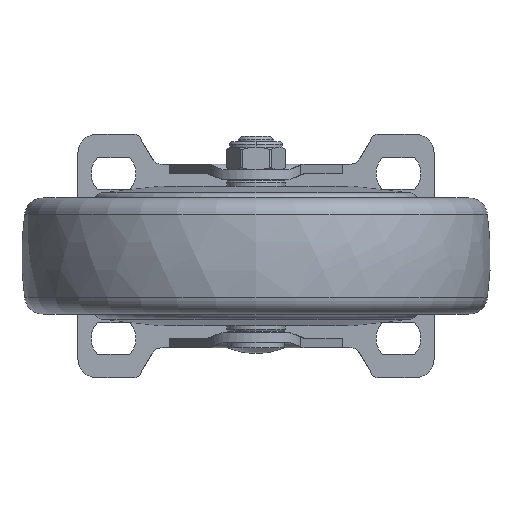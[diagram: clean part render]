
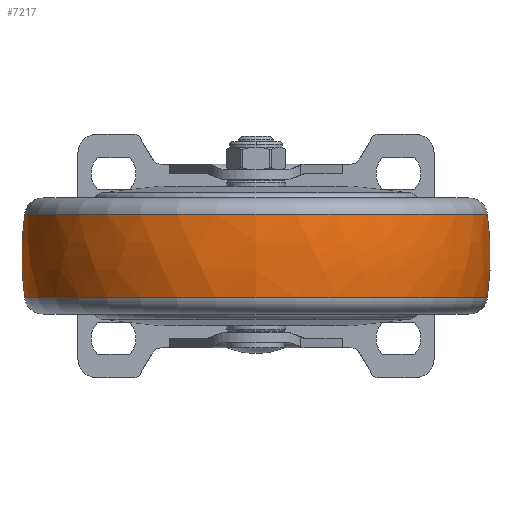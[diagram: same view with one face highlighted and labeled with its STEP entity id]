
A CAD part, front view. The second image highlights one B-rep face of the part: STEP entity #7217.
In plain terms, the highlighted free-form (B-spline) face has degree [3, 3] with [7, 4] control points.
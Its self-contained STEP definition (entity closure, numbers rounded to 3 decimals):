
#6668=CARTESIAN_POINT('',(11.2,0.,0.));
#6669=DIRECTION('',(-1.,0.,0.));
#6670=DIRECTION('',(0.,1.,0.));
#6671=AXIS2_PLACEMENT_3D('',#6668,#6669,#6670);
#6673=CARTESIAN_POINT('',(0.,-17.482,0.));
#6674=DIRECTION('',(0.,0.,1.));
#6675=DIRECTION('',(0.14,0.99,0.));
#6676=AXIS2_PLACEMENT_3D('',#6673,#6674,#6675);
#6683=CARTESIAN_POINT('',(0.,17.482,0.));
#6684=DIRECTION('',(0.,0.,-1.));
#6685=DIRECTION('',(0.14,-0.99,0.));
#6686=AXIS2_PLACEMENT_3D('',#6683,#6684,#6685);
#6895=CARTESIAN_POINT('',(-11.2,0.,0.));
#6896=DIRECTION('',(-1.,0.,0.));
#6897=DIRECTION('',(0.,1.,0.));
#6898=AXIS2_PLACEMENT_3D('',#6895,#6896,#6897);
#7082=CARTESIAN_POINT('',(11.2,61.73,0.));
#7083=CARTESIAN_POINT('',(-11.2,61.73,0.));
#7084=VERTEX_POINT('',#7082);
#7085=VERTEX_POINT('',#7083);
#7130=CARTESIAN_POINT('',(11.2,-61.73,
0.));
#7131=CARTESIAN_POINT('',(-11.2,-61.73,
0.));
#7132=VERTEX_POINT('',#7130);
#7133=VERTEX_POINT('',#7131);
#7178=CARTESIAN_POINT('',(11.645,61.544,3.872));
#7179=CARTESIAN_POINT('',(3.909,62.68,3.943));
#7180=CARTESIAN_POINT('',(-3.909,62.68,3.943));
#7181=CARTESIAN_POINT('',(-11.645,61.544,3.872));
#7182=CARTESIAN_POINT('',(11.645,63.927,-34.002));
#7183=CARTESIAN_POINT('',(3.909,65.107,-34.63));
#7184=CARTESIAN_POINT('',(-3.909,65.107,
-34.63));
#7185=CARTESIAN_POINT('',(-11.645,63.927,
-34.002));
#7186=CARTESIAN_POINT('',(11.645,37.949,-61.666));
#7187=CARTESIAN_POINT('',(3.909,38.649,-62.804));
#7188=CARTESIAN_POINT('',(-3.909,38.649,
-62.804));
#7189=CARTESIAN_POINT('',(-11.645,37.949,
-61.666));
#7190=CARTESIAN_POINT('',(11.645,0.,-61.666));
#7191=CARTESIAN_POINT('',(3.909,0.,-62.804));
#7192=CARTESIAN_POINT('',(-3.909,0.,-62.804));
#7193=CARTESIAN_POINT('',(-11.645,0.,
-61.666));
#7194=CARTESIAN_POINT('',(11.645,-37.949,
-61.666));
#7195=CARTESIAN_POINT('',(3.909,-38.649,
-62.804));
#7196=CARTESIAN_POINT('',(-3.909,-38.649,
-62.804));
#7197=CARTESIAN_POINT('',(-11.645,-37.949,
-61.666));
#7198=CARTESIAN_POINT('',(11.645,-63.927,
-34.002));
#7199=CARTESIAN_POINT('',(3.909,-65.107,
-34.63));
#7200=CARTESIAN_POINT('',(-3.909,-65.107,
-34.63));
#7201=CARTESIAN_POINT('',(-11.645,-63.927,
-34.002));
#7202=CARTESIAN_POINT('',(11.645,-61.544,3.872));
#7203=CARTESIAN_POINT('',(3.909,-62.68,3.943));
#7204=CARTESIAN_POINT('',(-3.909,-62.68,
3.943));
#7205=CARTESIAN_POINT('',(-11.645,-61.544,
3.872));
#7206=(BOUNDED_SURFACE()B_SPLINE_SURFACE(3,3,((#7178,#7179,#7180,#7181),(#7182,
#7183,#7184,#7185),(#7186,#7187,#7188,#7189),(#7190,#7191,#7192,#7193),(#7194,
#7195,#7196,#7197),(#7198,#7199,#7200,#7201),(#7202,#7203,#7204,#7205)),
.UNSPECIFIED.,.F.,.F.,.F.)B_SPLINE_SURFACE_WITH_KNOTS((4,3,4),(4,4),(0.,1.,
2.),(0.,1.),.UNSPECIFIED.)GEOMETRIC_REPRESENTATION_ITEM()RATIONAL_B_SPLINE_SURFACE(((1.194,1.185,1.185,1.194),(
0.943,0.936,0.936,0.943),(
0.943,0.936,0.936,0.943),(
1.194,1.185,1.185,1.194),(
0.943,0.936,0.936,0.943),(
0.943,0.936,0.936,0.943),(
1.194,1.185,1.185,1.194)))REPRESENTATION_ITEM('')SURFACE());
#7208=ORIENTED_EDGE('',*,*,#7207,.T.);
#7210=ORIENTED_EDGE('',*,*,#7209,.T.);
#7212=ORIENTED_EDGE('',*,*,#7211,.F.);
#7214=ORIENTED_EDGE('',*,*,#7213,.F.);
#7215=EDGE_LOOP('',(#7208,#7210,#7212,#7214));
#7216=FACE_OUTER_BOUND('',#7215,.F.);
#6672=CIRCLE('',#6671,61.73);
#6677=CIRCLE('',#6676,80.);
#6687=CIRCLE('',#6686,80.);
#6899=CIRCLE('',#6898,61.73);
#7207=EDGE_CURVE('',#7084,#7085,#6677,.T.);
#7209=EDGE_CURVE('',#7085,#7133,#6899,.T.);
#7211=EDGE_CURVE('',#7132,#7133,#6687,.T.);
#7213=EDGE_CURVE('',#7084,#7132,#6672,.T.);
#7217=ADVANCED_FACE('',(#7216),#7206,.T.);
